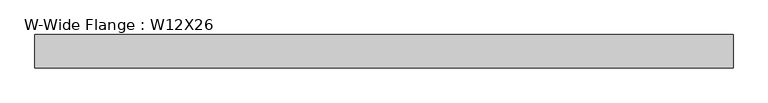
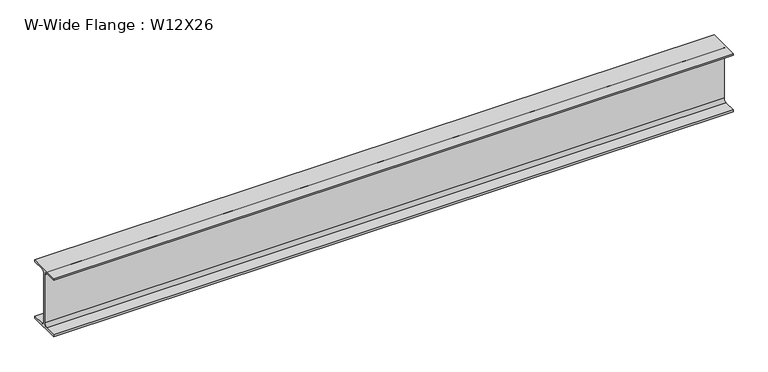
"""IFC4 building model written with IfcOpenShell, lengths in millimetres: beam geometry, W-Wide Flange : W12X26."""

import ifcopenshell
import ifcopenshell.guid

model = None  # the IFC model being written
_history = None  # IfcOwnerHistory: only IFC2X3 demands one
_inside = {}  # id of a spatial element -> (the spatial element, [elements in it])
_under = {}  # id of a project, library or spatial element -> (it, [spatial elements below it])
_declared = {}  # id of a project -> (the project, [libraries it declares])
_typed = {}  # id of a type object -> (the type object, [elements of that type])
_made_of = {}  # id of a material, layer set ... -> (it, [elements and type objects made of it])


def new_model(schema):
    """Start an empty IFC model of exactly this schema.

    Asked for "IFC4X3", IfcOpenShell would pick the latest addendum, in which some entities
    have other attributes; the version numbers below select the first issue.
    IFC2X3 requires an IfcOwnerHistory on every rooted entity: one is made here for all.
    """
    global model, _history
    if schema == "IFC4X3":
        model = ifcopenshell.file(schema_version=(4, 3, 0, 0))
    else:
        model = ifcopenshell.file(schema=schema)
    _inside.clear()
    _under.clear()
    _declared.clear()
    _typed.clear()
    _made_of.clear()
    _history = None
    if model.schema == "IFC2X3":
        org = make("IfcOrganization", Name="unknown")
        user = make(
            "IfcPersonAndOrganization",
            ThePerson=make("IfcPerson", FamilyName="unknown"),
            TheOrganization=org,
        )
        app = make(
            "IfcApplication",
            ApplicationDeveloper=org,
            Version="unknown",
            ApplicationFullName="unknown",
            ApplicationIdentifier="unknown",
        )
        _history = make(
            "IfcOwnerHistory",
            OwningUser=user,
            OwningApplication=app,
            ChangeAction="ADDED",
            CreationDate=0,
        )
    return model


def make(cls, **values):
    """One entity of the class cls with the attributes given. An attribute that is None is left unset."""
    return model.create_entity(
        cls, **{name: value for name, value in values.items() if value is not None}
    )


def rooted(cls, **values):
    """An entity with a GlobalId (a new one), such as an element, a storey or a relation."""
    return make(cls, GlobalId=ifcopenshell.guid.new(), OwnerHistory=_history, **values)


def si_unit(unit_type, name, prefix=None):
    """IfcSIUnit, for example si_unit("LENGTHUNIT", "METRE", prefix="MILLI")."""
    return make("IfcSIUnit", UnitType=unit_type, Prefix=prefix, Name=name)


def assignment(units):
    """IfcUnitAssignment: the units of a project."""
    return None if units is None else make("IfcUnitAssignment", Units=units)


def point(xyz):
    """IfcCartesianPoint."""
    return None if xyz is None else make("IfcCartesianPoint", Coordinates=xyz)


def direction(xyz):
    """IfcDirection."""
    return None if xyz is None else make("IfcDirection", DirectionRatios=xyz)


def frame(location, z_axis=None, x_axis=None):
    """IfcAxis2Placement3D, a coordinate frame: its origin and axes. An axis left out is left unset."""
    return make(
        "IfcAxis2Placement3D",
        Location=point(location),
        Axis=direction(z_axis),
        RefDirection=direction(x_axis),
    )


def frame_2d(location, x_axis=None):
    """IfcAxis2Placement2D, a coordinate frame in the plane: its origin and x axis."""
    return make(
        "IfcAxis2Placement2D", Location=point(location), RefDirection=direction(x_axis)
    )


def origin():
    """The frame at (0, 0, 0) with its axes left unset."""
    return frame((0.0, 0.0, 0.0))


def place(relative_to, where):
    """IfcLocalPlacement: puts the frame where relative to a parent placement (None: the world)."""
    return make(
        "IfcLocalPlacement", PlacementRelTo=relative_to, RelativePlacement=where
    )


def context(
    kind, dimensions, precision=None, world=None, true_north=None, identifier=None
):
    """IfcGeometricRepresentationContext, for example the 3D "Model" context."""
    return make(
        "IfcGeometricRepresentationContext",
        ContextIdentifier=identifier,
        ContextType=kind,
        CoordinateSpaceDimension=dimensions,
        Precision=precision,
        WorldCoordinateSystem=world,
        TrueNorth=true_north,
    )


def project(units=None, contexts=None):
    """IfcProject with its units and contexts."""
    return rooted(
        "IfcProject",
        Name="project",
        RepresentationContexts=contexts,
        UnitsInContext=assignment(units),
    )


def spatial(cls, under=None, at=None, **own):
    """A site, building, storey or space (cls), placed at a placement, below another one or the project."""
    s = rooted(cls, ObjectPlacement=at, **own)
    if under is not None:
        _under.setdefault(under.id(), (under, []))[1].append(s)
    return s


def polyline(points):
    """IfcPolyline through the points."""
    return make("IfcPolyline", Points=[point(p) for p in points])


def circle_curve(where, radius):
    """IfcCircle in the frame where."""
    return make("IfcCircle", Position=where, Radius=radius)


def trimmed(basis, trim1, trim2, sense, master):
    """IfcTrimmedCurve: the piece of a basis curve between two trims."""
    return make(
        "IfcTrimmedCurve",
        BasisCurve=basis,
        Trim1=trim1,
        Trim2=trim2,
        SenseAgreement=sense,
        MasterRepresentation=master,
    )


def segment(curve, same_sense, transition):
    """IfcCompositeCurveSegment."""
    return make(
        "IfcCompositeCurveSegment",
        Transition=transition,
        SameSense=same_sense,
        ParentCurve=curve,
    )


def composite_curve(segments, self_intersect=None):
    """IfcCompositeCurve: segments joined end to end."""
    return make("IfcCompositeCurve", Segments=segments, SelfIntersect=self_intersect)


def outline(outer, holes=None, kind="AREA"):
    """IfcArbitraryClosedProfileDef: a profile drawn as a closed curve; with holes, ...WithVoids."""
    if holes is None:
        return make("IfcArbitraryClosedProfileDef", ProfileType=kind, OuterCurve=outer)
    return make(
        "IfcArbitraryProfileDefWithVoids",
        ProfileType=kind,
        OuterCurve=outer,
        InnerCurves=holes,
    )


def extrude(swept, where, along, depth):
    """IfcExtrudedAreaSolid: the profile swept, set in the frame where, extruded along a direction by depth."""
    return make(
        "IfcExtrudedAreaSolid",
        SweptArea=swept,
        Position=where,
        ExtrudedDirection=direction(along),
        Depth=depth,
    )


def shape(context_of_items, identifier, shape_type, items):
    """IfcShapeRepresentation: the items that make up one representation, for example the "Body"."""
    return make(
        "IfcShapeRepresentation",
        ContextOfItems=context_of_items,
        RepresentationIdentifier=identifier,
        RepresentationType=shape_type,
        Items=items,
    )


def source(mapping_origin, context_of_items, identifier, shape_type, items):
    """IfcRepresentationMap: a shape defined once, which mapped items show again and again."""
    return make(
        "IfcRepresentationMap",
        MappingOrigin=mapping_origin,
        MappedRepresentation=shape(context_of_items, identifier, shape_type, items),
    )


def transform(
    local_origin,
    x_axis=None,
    y_axis=None,
    z_axis=None,
    scale=None,
    scale2=None,
    scale3=None,
    uniform=True,
):
    """IfcCartesianTransformationOperator3D, or its non-uniform kind. x_axis, y_axis, z_axis: its Axis1, 2, 3."""
    if uniform:
        return make(
            "IfcCartesianTransformationOperator3D",
            Axis1=direction(x_axis),
            Axis2=direction(y_axis),
            LocalOrigin=point(local_origin),
            Scale=scale,
            Axis3=direction(z_axis),
        )
    return make(
        "IfcCartesianTransformationOperator3DnonUniform",
        Axis1=direction(x_axis),
        Axis2=direction(y_axis),
        LocalOrigin=point(local_origin),
        Scale=scale,
        Axis3=direction(z_axis),
        Scale2=scale2,
        Scale3=scale3,
    )


def mapped(mapping_source, mapping_target):
    """IfcMappedItem: shows the shape of a source again, moved by a transform."""
    return make(
        "IfcMappedItem", MappingSource=mapping_source, MappingTarget=mapping_target
    )


def made_of(thing, what):
    """Note that an element or type object is made of a material, layer set ...; save() writes the relation."""
    if what is not None:
        _made_of.setdefault(what.id(), (what, []))[1].append(thing)
    return thing


def element(
    cls,
    number,
    at=None,
    inside=None,
    cuts=None,
    type_object=None,
    material=None,
    context=None,
    identifier="Body",
    shape_type=None,
    held_by="IfcProductDefinitionShape",
    body=None,
    shapes=None,
    **own,
):
    """One element of the class cls, such as IfcWall. Its Tag is "e" and its number.

    at: its placement. inside: the storey or other place that contains it. cuts: it is an
    opening in that element (IfcRelVoidsElement). A single representation is given by context,
    identifier, shape_type and body (its items); several are given by shapes. held_by: the class
    of the entity that holds the representations. save() writes the other relations.
    """
    e = rooted(cls, Tag="e%d" % number, ObjectPlacement=at, **own)
    if body is not None:
        shapes = [shape(context, identifier, shape_type, body)]
    if shapes is not None:
        e.Representation = make(held_by, Representations=shapes)
    if inside is not None:
        _inside.setdefault(inside.id(), (inside, []))[1].append(e)
    if cuts is not None:
        rooted(
            "IfcRelVoidsElement", RelatingBuildingElement=cuts, RelatedOpeningElement=e
        )
    if type_object is not None:
        _typed.setdefault(type_object.id(), (type_object, []))[1].append(e)
    return made_of(e, material)


def aggregate(whole, parts):
    """IfcRelAggregates: a whole, such as a stair, and the parts it consists of."""
    return rooted("IfcRelAggregates", RelatingObject=whole, RelatedObjects=parts)


def save(model, path):
    """Write the relations noted so far, then the file.

    IfcRelAggregates (storeys below a building ...), IfcRelContainedInSpatialStructure (elements
    in a storey), IfcRelDefinesByType, IfcRelAssociatesMaterial and IfcRelDeclares: one each for
    every whole, place, type object, material and project.
    """
    for whole, parts in _under.values():
        aggregate(whole, parts)
    for where, things in _inside.values():
        rooted(
            "IfcRelContainedInSpatialStructure",
            RelatedElements=things,
            RelatingStructure=where,
        )
    for kind, things in _typed.values():
        rooted("IfcRelDefinesByType", RelatedObjects=things, RelatingType=kind)
    for what, things in _made_of.values():
        rooted("IfcRelAssociatesMaterial", RelatedObjects=things, RelatingMaterial=what)
    for by, libraries in _declared.values():
        rooted("IfcRelDeclares", RelatingContext=by, RelatedDefinitions=libraries)
    model.write(path)


def w_wide_flange_w12x26_9ce355fa(model_context):
    return source(origin(), model_context, "Body", "SweptSolid", [
        extrude(outline(composite_curve([segment(polyline([(82.4011719, -145.5539063), (82.4011719, -155.178125), (-82.4011719, -155.178125), (-82.4011719, -145.5539063), (-20.2902344, -145.5539063)]), True, "CONTINUOUS"), segment(trimmed(circle_curve(frame_2d((-20.2902344, -128.190625)), 17.3632812), [point((-20.2902344, -145.5539063))], [point((-2.9269531, -128.190625))], True, "CARTESIAN"), True, "CONTINUOUS"), segment(polyline([(-2.9269531, -128.190625), (-2.9269531, 128.190625)]), True, "CONTINUOUS"), segment(trimmed(circle_curve(frame_2d((-20.2902344, 128.190625)), 17.3632812), [point((-2.9269531, 128.190625))], [point((-20.2902344, 145.5539062))], True, "CARTESIAN"), True, "CONTINUOUS"), segment(polyline([(-20.2902344, 145.5539062), (-82.4011719, 145.5539062), (-82.4011719, 155.178125), (82.4011719, 155.178125), (82.4011719, 145.5539062), (20.2902344, 145.5539062)]), True, "CONTINUOUS"), segment(trimmed(circle_curve(frame_2d((20.2902344, 128.190625)), 17.3632812), [point((20.2902344, 145.5539062))], [point((2.9269531, 128.190625))], True, "CARTESIAN"), True, "CONTINUOUS"), segment(polyline([(2.9269531, 128.190625), (2.9269531, -128.190625)]), True, "CONTINUOUS"), segment(trimmed(circle_curve(frame_2d((20.2902344, -128.190625)), 17.3632812), [point((2.9269531, -128.190625))], [point((20.2902344, -145.5539063))], True, "CARTESIAN"), True, "CONTINUOUS"), segment(polyline([(20.2902344, -145.5539063), (82.4011719, -145.5539063)]), True, "CONTINUOUS")], self_intersect=False)), frame((-1780.4308594, 0.0, 0.0), z_axis=(1.0, 0.0, 0.0), x_axis=(0.0, 1.0, 0.0)), (0.0, 0.0, 1.0), 3429.0992187),
    ])


if __name__ == "__main__":
    model = new_model("IFC4")
    model_context = context("Model", 3, world=origin())
    ifc_project = project(units=[si_unit("LENGTHUNIT", "METRE", prefix="MILLI")], contexts=[model_context])
    site = spatial("IfcSite", under=ifc_project)
    building = spatial("IfcBuilding", under=site)
    placement = place(None, origin())
    w_wide_flange_w12x26_shape = w_wide_flange_w12x26_9ce355fa(model_context)
    element("IfcBeam", 1, ObjectType="W-Wide Flange : W12X26", at=placement, inside=building, context=model_context, shape_type="MappedRepresentation", body=[
        mapped(w_wide_flange_w12x26_shape, transform((0.0, 0.0, 0.0), x_axis=(1.0, 0.0, 0.0), y_axis=(0.0, 1.0, 0.0), z_axis=(0.0, 0.0, 1.0))),
    ])
    save(model, "model.ifc")
